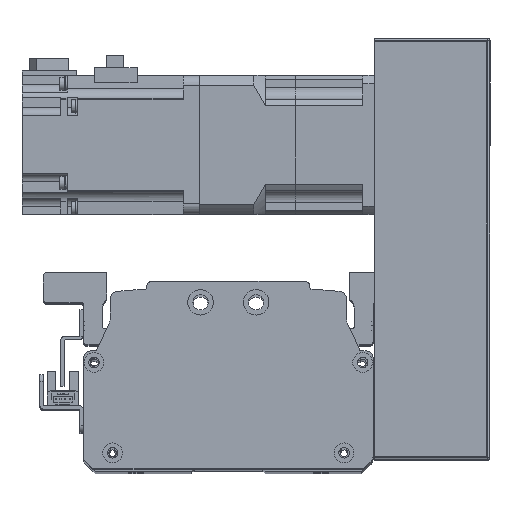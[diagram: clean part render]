
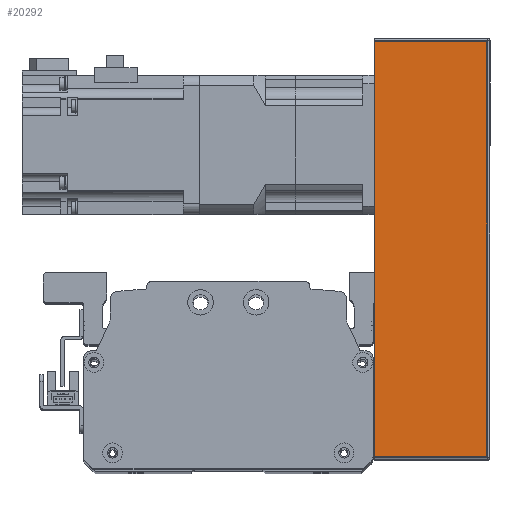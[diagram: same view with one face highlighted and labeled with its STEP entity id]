
A CAD part, top view. The second image highlights one B-rep face of the part: STEP entity #20292.
In plain terms, the highlighted planar face has unit normal (0, 0, 1) as drawn and (0, -1, 0) by its records, which use the part's own axes.
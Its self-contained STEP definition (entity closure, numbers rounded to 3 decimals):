
#563=PLANE('',#22247);
#1778=LINE('',#33048,#3402);
#1792=LINE('',#33100,#3416);
#1794=LINE('',#33108,#3418);
#1795=LINE('',#33110,#3419);
#3402=VECTOR('',#26833,10.);
#3416=VECTOR('',#26893,10.);
#3418=VECTOR('',#26907,10.);
#3419=VECTOR('',#26910,10.);
#5740=FACE_OUTER_BOUND('',#7156,.T.);
#7156=EDGE_LOOP('',(#16884,#16885,#16886,#16887));
#9984=VERTEX_POINT('',#33045);
#9985=VERTEX_POINT('',#33047);
#9999=VERTEX_POINT('',#33095);
#10000=VERTEX_POINT('',#33098);
#12408=EDGE_CURVE('',#9985,#9984,#1778,.T.);
#12436=EDGE_CURVE('',#9999,#10000,#1792,.T.);
#12440=EDGE_CURVE('',#10000,#9985,#1794,.T.);
#12441=EDGE_CURVE('',#9984,#9999,#1795,.T.);
#16884=ORIENTED_EDGE('',*,*,#12436,.T.);
#16885=ORIENTED_EDGE('',*,*,#12440,.T.);
#16886=ORIENTED_EDGE('',*,*,#12408,.T.);
#16887=ORIENTED_EDGE('',*,*,#12441,.T.);
#20292=ADVANCED_FACE('',(#5740),#563,.F.);
#22247=AXIS2_PLACEMENT_3D('',#33109,#26908,#26909);
#26833=DIRECTION('',(1.,0.,0.));
#26893=DIRECTION('',(-1.,0.,0.));
#26907=DIRECTION('',(0.,0.,-1.));
#26908=DIRECTION('center_axis',(0.,1.,0.));
#26909=DIRECTION('ref_axis',(1.,0.,0.));
#26910=DIRECTION('',(0.,0.,1.));
#33045=CARTESIAN_POINT('',(90.,-38.,-25.));
#33047=CARTESIAN_POINT('',(-90.,-38.,-25.));
#33048=CARTESIAN_POINT('',(91.,-38.,-25.));
#33095=CARTESIAN_POINT('',(90.,-38.,24.));
#33098=CARTESIAN_POINT('',(-90.,-38.,24.));
#33100=CARTESIAN_POINT('',(-45.5,-38.,24.));
#33108=CARTESIAN_POINT('',(-90.,-38.,0.));
#33109=CARTESIAN_POINT('Origin',(-91.,-38.,0.));
#33110=CARTESIAN_POINT('',(90.,-38.,0.));
